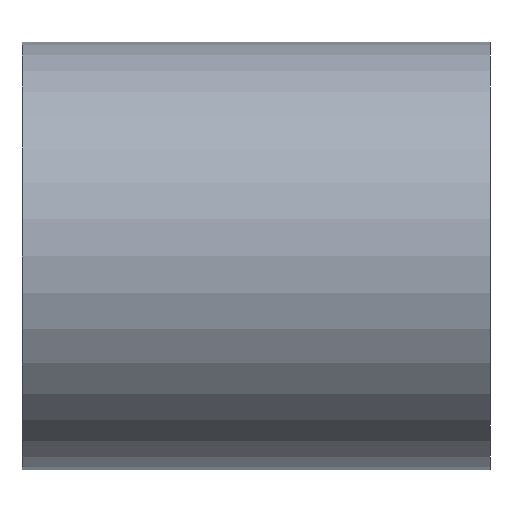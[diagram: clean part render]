
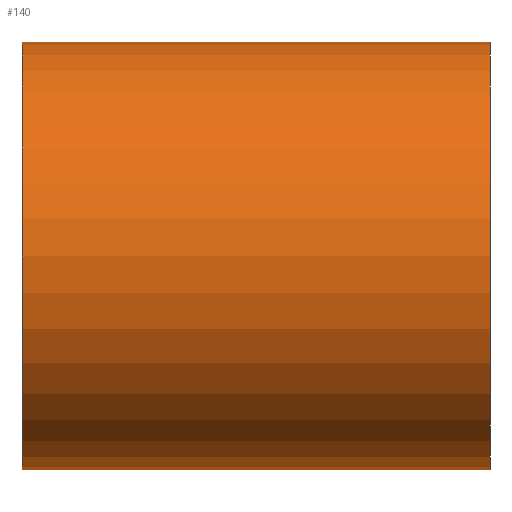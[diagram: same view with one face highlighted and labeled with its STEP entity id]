
A CAD part, front view. The second image highlights one B-rep face of the part: STEP entity #140.
In plain terms, the highlighted cylindrical face has radius 3.2 mm (diameter 6.4 mm), a full revolution.
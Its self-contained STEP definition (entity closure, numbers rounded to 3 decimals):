
#43 = PLANE('',#44);
#44 = AXIS2_PLACEMENT_3D('',#45,#46,#47);
#45 = CARTESIAN_POINT('',(0.,0.,0.));
#46 = DIRECTION('',(1.,0.,0.));
#47 = DIRECTION('',(-0.,1.,0.));
#93 = PLANE('',#94);
#94 = AXIS2_PLACEMENT_3D('',#95,#96,#97);
#95 = CARTESIAN_POINT('',(7.,0.,0.));
#96 = DIRECTION('',(1.,0.,0.));
#97 = DIRECTION('',(-0.,1.,0.));
#112 = EDGE_CURVE('',#113,#113,#115,.T.);
#113 = VERTEX_POINT('',#114);
#114 = CARTESIAN_POINT('',(7.,3.2,0.));
#115 = SURFACE_CURVE('',#116,(#121,#128),.PCURVE_S1.);
#116 = CIRCLE('',#117,3.2);
#117 = AXIS2_PLACEMENT_3D('',#118,#119,#120);
#118 = CARTESIAN_POINT('',(7.,0.,0.));
#119 = DIRECTION('',(1.,0.,0.));
#120 = DIRECTION('',(-0.,1.,0.));
#121 = PCURVE('',#93,#122);
#122 = DEFINITIONAL_REPRESENTATION('',(#123),#127);
#123 = CIRCLE('',#124,3.2);
#124 = AXIS2_PLACEMENT_2D('',#125,#126);
#125 = CARTESIAN_POINT('',(0.,0.));
#126 = DIRECTION('',(1.,-0.));
#127 = ( GEOMETRIC_REPRESENTATION_CONTEXT(2) 
PARAMETRIC_REPRESENTATION_CONTEXT() REPRESENTATION_CONTEXT('2D SPACE',''
  ) );
#128 = PCURVE('',#129,#134);
#129 = CYLINDRICAL_SURFACE('',#130,3.2);
#130 = AXIS2_PLACEMENT_3D('',#131,#132,#133);
#131 = CARTESIAN_POINT('',(7.,0.,0.));
#132 = DIRECTION('',(-1.,-0.,-0.));
#133 = DIRECTION('',(0.,1.,0.));
#134 = DEFINITIONAL_REPRESENTATION('',(#135),#139);
#135 = LINE('',#136,#137);
#136 = CARTESIAN_POINT('',(-0.,0.));
#137 = VECTOR('',#138,1.);
#138 = DIRECTION('',(-1.,0.));
#139 = ( GEOMETRIC_REPRESENTATION_CONTEXT(2) 
PARAMETRIC_REPRESENTATION_CONTEXT() REPRESENTATION_CONTEXT('2D SPACE',''
  ) );
#140 = ADVANCED_FACE('',(#141),#129,.T.);
#141 = FACE_BOUND('',#142,.F.);
#142 = EDGE_LOOP('',(#143,#144,#167,#189));
#143 = ORIENTED_EDGE('',*,*,#112,.T.);
#144 = ORIENTED_EDGE('',*,*,#145,.T.);
#145 = EDGE_CURVE('',#113,#146,#148,.T.);
#146 = VERTEX_POINT('',#147);
#147 = CARTESIAN_POINT('',(0.,3.2,0.));
#148 = SEAM_CURVE('',#149,(#153,#160),.PCURVE_S1.);
#149 = LINE('',#150,#151);
#150 = CARTESIAN_POINT('',(7.,3.2,0.));
#151 = VECTOR('',#152,1.);
#152 = DIRECTION('',(-1.,0.,0.));
#153 = PCURVE('',#129,#154);
#154 = DEFINITIONAL_REPRESENTATION('',(#155),#159);
#155 = LINE('',#156,#157);
#156 = CARTESIAN_POINT('',(-0.,0.));
#157 = VECTOR('',#158,1.);
#158 = DIRECTION('',(-0.,1.));
#159 = ( GEOMETRIC_REPRESENTATION_CONTEXT(2) 
PARAMETRIC_REPRESENTATION_CONTEXT() REPRESENTATION_CONTEXT('2D SPACE',''
  ) );
#160 = PCURVE('',#129,#161);
#161 = DEFINITIONAL_REPRESENTATION('',(#162),#166);
#162 = LINE('',#163,#164);
#163 = CARTESIAN_POINT('',(-6.283,0.));
#164 = VECTOR('',#165,1.);
#165 = DIRECTION('',(-0.,1.));
#166 = ( GEOMETRIC_REPRESENTATION_CONTEXT(2) 
PARAMETRIC_REPRESENTATION_CONTEXT() REPRESENTATION_CONTEXT('2D SPACE',''
  ) );
#167 = ORIENTED_EDGE('',*,*,#168,.F.);
#168 = EDGE_CURVE('',#146,#146,#169,.T.);
#169 = SURFACE_CURVE('',#170,(#175,#182),.PCURVE_S1.);
#170 = CIRCLE('',#171,3.2);
#171 = AXIS2_PLACEMENT_3D('',#172,#173,#174);
#172 = CARTESIAN_POINT('',(0.,0.,0.));
#173 = DIRECTION('',(1.,0.,0.));
#174 = DIRECTION('',(-0.,1.,0.));
#175 = PCURVE('',#129,#176);
#176 = DEFINITIONAL_REPRESENTATION('',(#177),#181);
#177 = LINE('',#178,#179);
#178 = CARTESIAN_POINT('',(-0.,7.));
#179 = VECTOR('',#180,1.);
#180 = DIRECTION('',(-1.,0.));
#181 = ( GEOMETRIC_REPRESENTATION_CONTEXT(2) 
PARAMETRIC_REPRESENTATION_CONTEXT() REPRESENTATION_CONTEXT('2D SPACE',''
  ) );
#182 = PCURVE('',#43,#183);
#183 = DEFINITIONAL_REPRESENTATION('',(#184),#188);
#184 = CIRCLE('',#185,3.2);
#185 = AXIS2_PLACEMENT_2D('',#186,#187);
#186 = CARTESIAN_POINT('',(0.,0.));
#187 = DIRECTION('',(1.,0.));
#188 = ( GEOMETRIC_REPRESENTATION_CONTEXT(2) 
PARAMETRIC_REPRESENTATION_CONTEXT() REPRESENTATION_CONTEXT('2D SPACE',''
  ) );
#189 = ORIENTED_EDGE('',*,*,#145,.F.);
